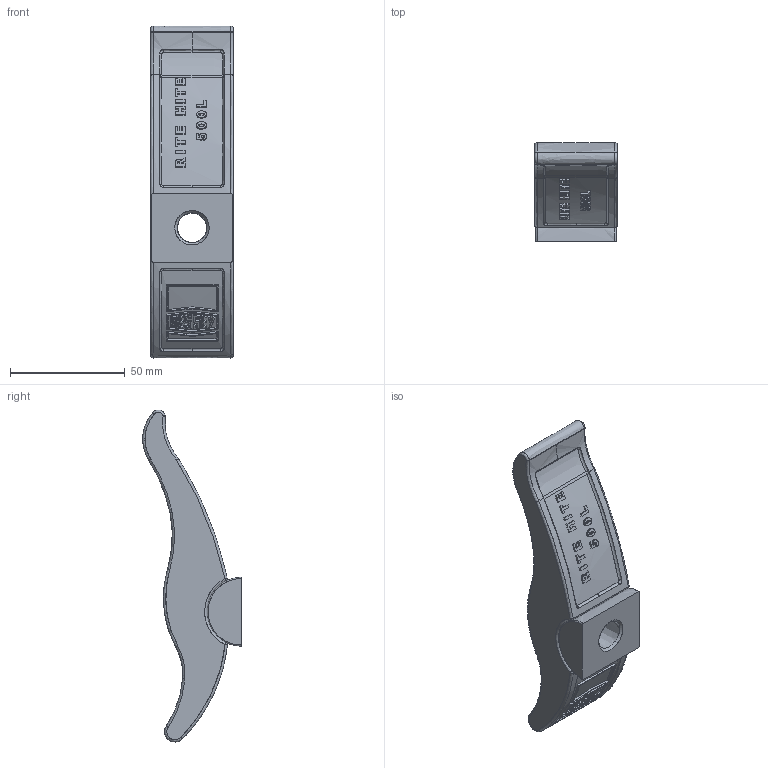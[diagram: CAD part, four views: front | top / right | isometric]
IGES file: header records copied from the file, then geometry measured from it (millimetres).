
Start section: ZWSOFT
Global section: file name: 500L.igs; native system: ZW3D; preprocessor: 1.0; author: ZW3D; organization: ZWSOFT; date: 121122.095516; units: millimetre
Bounding box: 36 x 43.03 x 144.81 mm (x, y, z)
Surface area: 21536.7 mm2 (no closed solid volume)
Topology: 0 solids, 0 shells, 415 faces, 2433 edges, 2645 vertices
Faces by surface type: bspline 415
